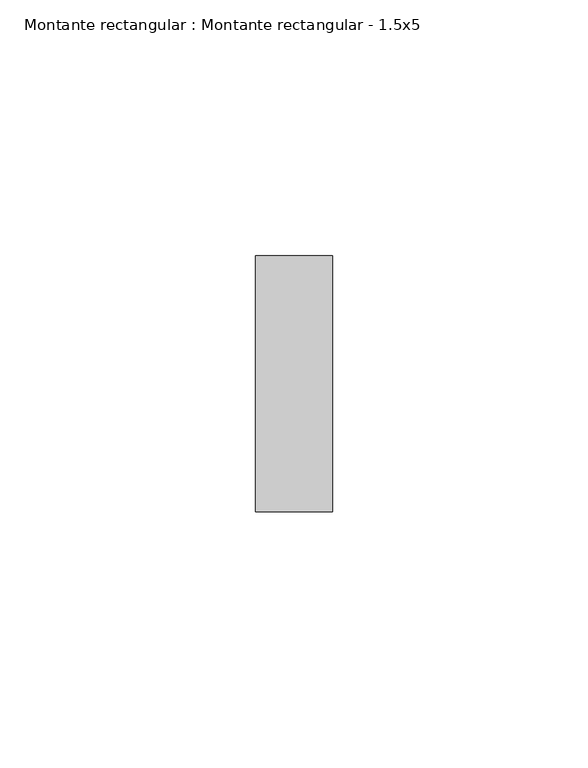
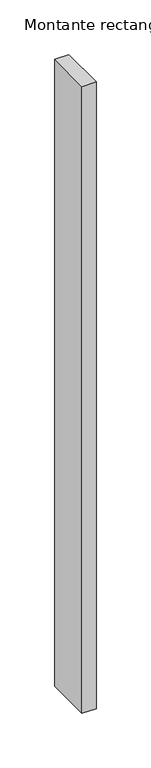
"""IFC4 building model written with IfcOpenShell, lengths in millimetres: member geometry, Montante rectangular : Montante rectangular - 1.5x5."""

from ifc_helpers import new_model, si_unit, frame, origin, place, context, project, spatial, polyline, outline, extrude, source, transform, mapped, element, save


def montante_rectangular_montante_rectangular_1_5x5_1b1c74e0(model_context):
    return source(origin(), model_context, "Body", "SweptSolid", [
        extrude(outline(polyline([(7.5, 25.0), (7.5, -25.0), (-7.5, -25.0), (-7.5, 25.0), (7.5, 25.0)])), frame((0.0, 0.0, -700.0), z_axis=(0.0, 0.0, 1.0), x_axis=(1.0, 0.0, 0.0)), (0.0, 0.0, 1.0), 700.0),
    ])


if __name__ == "__main__":
    model = new_model("IFC4")
    model_context = context("Model", 3, world=origin())
    ifc_project = project(units=[si_unit("LENGTHUNIT", "METRE", prefix="MILLI")], contexts=[model_context])
    site = spatial("IfcSite", under=ifc_project)
    building = spatial("IfcBuilding", under=site)
    placement = place(None, origin())
    montante_rectangular_montante_rectangular_1_5x5_shape = montante_rectangular_montante_rectangular_1_5x5_1b1c74e0(model_context)
    element("IfcMember", 1, ObjectType="Montante rectangular : Montante rectangular - 1.5x5", at=placement, inside=building, context=model_context, shape_type="MappedRepresentation", body=[
        mapped(montante_rectangular_montante_rectangular_1_5x5_shape, transform((0.0, 0.0, 0.0), x_axis=(1.0, 0.0, 0.0), y_axis=(0.0, 1.0, 0.0), z_axis=(0.0, 0.0, 1.0))),
    ])
    save(model, "model.ifc")
